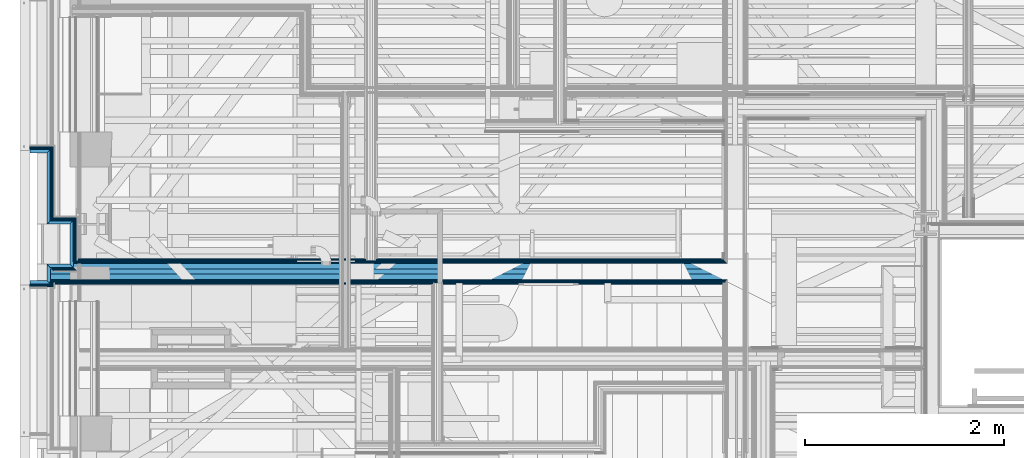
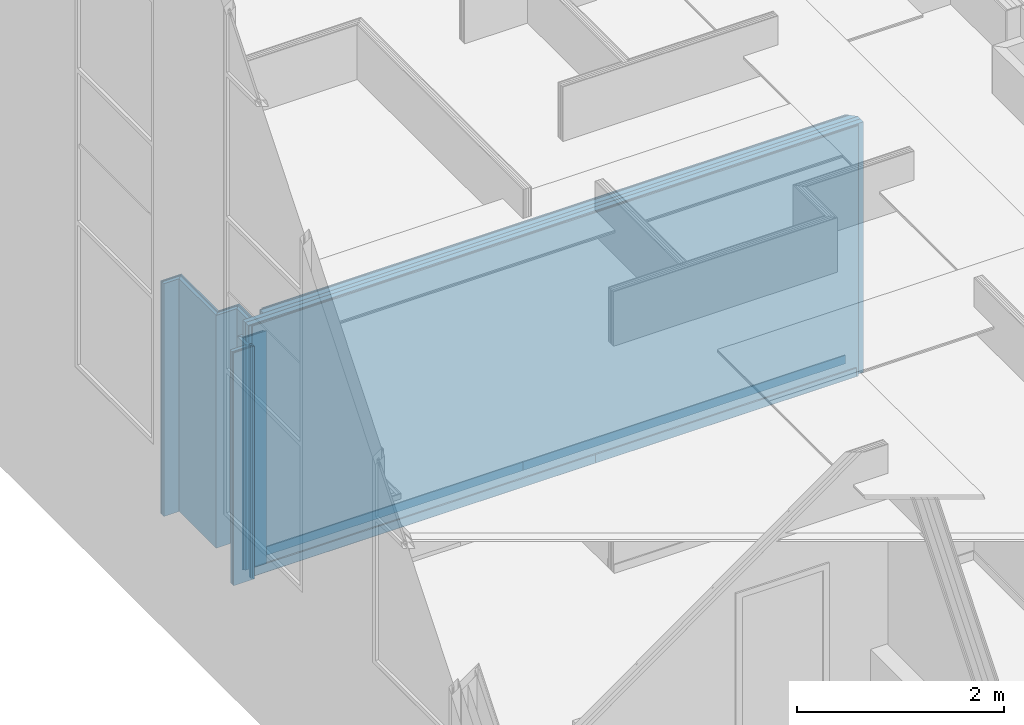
# One storey, part 37 of 183: 32 building element parts, 8 elements without a shape of their own.
"""IFC2X3 building model written with IfcOpenShell, lengths in metres."""

from ifc_helpers import new_model, entity, si_unit, converted_unit, derived_unit, money_unit, direction, frame, frame_2d, origin_with_axes, place, context, subcontext, project, spatial, polyline, rectangle, outline, extrude, material, type_object, element, aggregate, save


model = new_model("IFC2X3")

# Units and contexts
model_context = context("Model", 3, precision=1e-05, world=origin_with_axes(), true_north=direction((0.0, 1.0)))
body_context = subcontext(model_context, "Body", "Model", "MODEL_VIEW", scale=1.0)
ifc_project = project(units=[si_unit("LENGTHUNIT", "METRE"), si_unit("AREAUNIT", "SQUARE_METRE"), si_unit("VOLUMEUNIT", "CUBIC_METRE"), si_unit("ABSORBEDDOSEUNIT", "GRAY"), si_unit("AMOUNTOFSUBSTANCEUNIT", "MOLE"), si_unit("DOSEEQUIVALENTUNIT", "SIEVERT"), si_unit("ELECTRICCAPACITANCEUNIT", "FARAD"), si_unit("ELECTRICCHARGEUNIT", "COULOMB"), si_unit("ELECTRICCONDUCTANCEUNIT", "SIEMENS"), si_unit("ELECTRICCURRENTUNIT", "AMPERE"), si_unit("ELECTRICRESISTANCEUNIT", "OHM"), si_unit("ELECTRICVOLTAGEUNIT", "VOLT"), si_unit("ENERGYUNIT", "JOULE"), si_unit("FORCEUNIT", "NEWTON"), si_unit("FREQUENCYUNIT", "HERTZ"), si_unit("ILLUMINANCEUNIT", "LUX"), si_unit("INDUCTANCEUNIT", "HENRY"), si_unit("LUMINOUSFLUXUNIT", "LUMEN"), si_unit("LUMINOUSINTENSITYUNIT", "CANDELA"), si_unit("MAGNETICFLUXDENSITYUNIT", "TESLA"), si_unit("MAGNETICFLUXUNIT", "WEBER"), si_unit("MASSUNIT", "GRAM"), converted_unit("PLANEANGLEUNIT", "degree", entity("IfcReal", 0.0174532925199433), si_unit("PLANEANGLEUNIT", "RADIAN"), dimensions=[0, 0, 0, 0, 0, 0, 0]), si_unit("POWERUNIT", "WATT"), si_unit("PRESSUREUNIT", "PASCAL"), si_unit("RADIOACTIVITYUNIT", "BECQUEREL"), si_unit("SOLIDANGLEUNIT", "STERADIAN"), si_unit("THERMODYNAMICTEMPERATUREUNIT", "KELVIN"), si_unit("TIMEUNIT", "SECOND"), derived_unit("ACCELERATIONUNIT", [(si_unit("LENGTHUNIT", "METRE"), 1), (si_unit("TIMEUNIT", "SECOND"), -2)]), derived_unit("ANGULARVELOCITYUNIT", [(converted_unit("PLANEANGLEUNIT", "degree", entity("IfcReal", 0.0174532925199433), si_unit("PLANEANGLEUNIT", "RADIAN"), dimensions=[0, 0, 0, 0, 0, 0, 0]), 1), (si_unit("TIMEUNIT", "SECOND"), -1)]), derived_unit("CURVATUREUNIT", [(converted_unit("PLANEANGLEUNIT", "degree", entity("IfcReal", 0.0174532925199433), si_unit("PLANEANGLEUNIT", "RADIAN"), dimensions=[0, 0, 0, 0, 0, 0, 0]), 1), (si_unit("LENGTHUNIT", "METRE"), -1)]), derived_unit("DYNAMICVISCOSITYUNIT", [(si_unit("PRESSUREUNIT", "PASCAL"), 1), (si_unit("TIMEUNIT", "SECOND"), 1)]), derived_unit("HEATFLUXDENSITYUNIT", [(si_unit("POWERUNIT", "WATT"), 1), (si_unit("LENGTHUNIT", "METRE"), -2)]), derived_unit("HEATINGVALUEUNIT", [(si_unit("ENERGYUNIT", "JOULE"), 1), (si_unit("MASSUNIT", "GRAM"), -1)]), derived_unit("INTEGERCOUNTRATEUNIT", [(si_unit("TIMEUNIT", "SECOND"), -1)]), derived_unit("IONCONCENTRATIONUNIT", [(si_unit("MASSUNIT", "GRAM"), 1), (si_unit("VOLUMEUNIT", "CUBIC_METRE"), -1)]), derived_unit("ISOTHERMALMOISTURECAPACITYUNIT", [(si_unit("VOLUMEUNIT", "CUBIC_METRE"), 1), (si_unit("MASSUNIT", "GRAM"), -1)]), derived_unit("KINEMATICVISCOSITYUNIT", [(si_unit("AREAUNIT", "SQUARE_METRE"), 1), (si_unit("TIMEUNIT", "SECOND"), -1)]), derived_unit("LINEARFORCEUNIT", [(si_unit("FORCEUNIT", "NEWTON"), 1), (si_unit("LENGTHUNIT", "METRE"), -1)]), derived_unit("LINEARMOMENTUNIT", [(si_unit("FORCEUNIT", "NEWTON"), 1), (si_unit("LENGTHUNIT", "METRE"), -1)]), derived_unit("LINEARSTIFFNESSUNIT", [(si_unit("FORCEUNIT", "NEWTON"), 1), (si_unit("LENGTHUNIT", "METRE"), -1)]), derived_unit("LINEARVELOCITYUNIT", [(si_unit("LENGTHUNIT", "METRE"), 1), (si_unit("TIMEUNIT", "SECOND"), -1)]), derived_unit("LUMINOUSINTENSITYDISTRIBUTIONUNIT", [(si_unit("LUMINOUSINTENSITYUNIT", "CANDELA"), 1), (si_unit("LUMINOUSFLUXUNIT", "LUMEN"), -1)]), derived_unit("MASSDENSITYUNIT", [(si_unit("MASSUNIT", "GRAM"), 1), (si_unit("VOLUMEUNIT", "CUBIC_METRE"), -1)]), derived_unit("MASSFLOWRATEUNIT", [(si_unit("MASSUNIT", "GRAM"), 1), (si_unit("TIMEUNIT", "SECOND"), -1)]), derived_unit("MASSPERLENGTHUNIT", [(si_unit("MASSUNIT", "GRAM"), 1), (si_unit("LENGTHUNIT", "METRE"), -1)]), derived_unit("MODULUSOFELASTICITYUNIT", [(si_unit("FORCEUNIT", "NEWTON"), 1), (si_unit("AREAUNIT", "SQUARE_METRE"), -1)]), derived_unit("MODULUSOFLINEARSUBGRADEREACTIONUNIT", [(si_unit("FORCEUNIT", "NEWTON"), 1), (si_unit("LENGTHUNIT", "METRE"), -2)]), derived_unit("MODULUSOFROTATIONALSUBGRADEREACTIONUNIT", [(si_unit("FORCEUNIT", "NEWTON"), 1), (si_unit("LENGTHUNIT", "METRE"), 1)]), derived_unit("MODULUSOFSUBGRADEREACTIONUNIT", [(si_unit("FORCEUNIT", "NEWTON"), 1), (si_unit("VOLUMEUNIT", "CUBIC_METRE"), -1)]), derived_unit("MOISTUREDIFFUSIVITYUNIT", [(si_unit("VOLUMEUNIT", "CUBIC_METRE"), 1), (si_unit("TIMEUNIT", "SECOND"), -1)]), derived_unit("MOLECULARWEIGHTUNIT", [(si_unit("MASSUNIT", "GRAM"), 1), (si_unit("AMOUNTOFSUBSTANCEUNIT", "MOLE"), -1)]), derived_unit("PLANARFORCEUNIT", [(si_unit("FORCEUNIT", "NEWTON"), 1), (si_unit("LENGTHUNIT", "METRE"), -2)]), derived_unit("ROTATIONALFREQUENCYUNIT", [(si_unit("TIMEUNIT", "SECOND"), -1)]), derived_unit("ROTATIONALMASSUNIT", [(si_unit("MASSUNIT", "GRAM"), 1), (si_unit("LENGTHUNIT", "METRE"), 2)]), derived_unit("ROTATIONALSTIFFNESSUNIT", [(si_unit("FORCEUNIT", "NEWTON"), 1), (si_unit("LENGTHUNIT", "METRE"), 1), (converted_unit("PLANEANGLEUNIT", "degree", entity("IfcReal", 0.0174532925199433), si_unit("PLANEANGLEUNIT", "RADIAN"), dimensions=[0, 0, 0, 0, 0, 0, 0]), -1)]), derived_unit("SECTIONAREAINTEGRALUNIT", [(si_unit("LENGTHUNIT", "METRE"), 5)]), derived_unit("SECTIONMODULUSUNIT", [(si_unit("LENGTHUNIT", "METRE"), 3)]), derived_unit("SHEARMODULUSUNIT", [(si_unit("FORCEUNIT", "NEWTON"), 1), (si_unit("AREAUNIT", "SQUARE_METRE"), -1)]), derived_unit("SOUNDPOWERUNIT", [(si_unit("ENERGYUNIT", "JOULE"), 1), (si_unit("TIMEUNIT", "SECOND"), -1)]), derived_unit("SPECIFICHEATCAPACITYUNIT", [(si_unit("FORCEUNIT", "NEWTON"), 1), (si_unit("MASSUNIT", "GRAM"), -1), (si_unit("THERMODYNAMICTEMPERATUREUNIT", "KELVIN"), -1)]), derived_unit("TEMPERATUREGRADIENTUNIT", [(si_unit("THERMODYNAMICTEMPERATUREUNIT", "KELVIN"), 1), (si_unit("LENGTHUNIT", "METRE"), -1)]), derived_unit("THERMALADMITTANCEUNIT", [(si_unit("POWERUNIT", "WATT"), 1), (si_unit("AREAUNIT", "SQUARE_METRE"), -1), (si_unit("THERMODYNAMICTEMPERATUREUNIT", "KELVIN"), -1)]), derived_unit("THERMALCONDUCTANCEUNIT", [(si_unit("POWERUNIT", "WATT"), 1), (si_unit("LENGTHUNIT", "METRE"), -1), (si_unit("THERMODYNAMICTEMPERATUREUNIT", "KELVIN"), -1)]), derived_unit("THERMALEXPANSIONCOEFFICIENTUNIT", [(si_unit("THERMODYNAMICTEMPERATUREUNIT", "KELVIN"), -1)]), derived_unit("THERMALRESISTANCEUNIT", [(si_unit("AREAUNIT", "SQUARE_METRE"), 1), (si_unit("POWERUNIT", "WATT"), -1)]), derived_unit("THERMALTRANSMITTANCEUNIT", [(si_unit("POWERUNIT", "WATT"), 1), (si_unit("AREAUNIT", "SQUARE_METRE"), -1), (si_unit("THERMODYNAMICTEMPERATUREUNIT", "KELVIN"), -1)]), derived_unit("TORQUEUNIT", [(si_unit("FORCEUNIT", "NEWTON"), 1), (si_unit("LENGTHUNIT", "METRE"), 1)]), derived_unit("VAPORPERMEABILITYUNIT", [(si_unit("MASSUNIT", "GRAM"), 1), (si_unit("TIMEUNIT", "SECOND"), -1)]), derived_unit("VOLUMETRICFLOWRATEUNIT", [(si_unit("VOLUMEUNIT", "CUBIC_METRE"), 1), (si_unit("TIMEUNIT", "SECOND"), -1)]), derived_unit("WARPINGCONSTANTUNIT", [(si_unit("LENGTHUNIT", "METRE"), 6)]), derived_unit("WARPINGMOMENTUNIT", [(si_unit("FORCEUNIT", "NEWTON"), 1), (si_unit("LENGTHUNIT", "METRE"), 2)]), money_unit("GBP")], contexts=[model_context])

# Site, building, storey
site_placement = place(None, origin_with_axes())
site = spatial("IfcSite", under=ifc_project, at=site_placement, Name="Site", CompositionType="ELEMENT")
building_placement = place(site_placement, origin_with_axes())
building = spatial("IfcBuilding", under=site, at=building_placement, Name="Building01", CompositionType="ELEMENT")
storey_placement = place(building_placement, frame((0.0, 0.0, 5.15), z_axis=(0.0, 0.0, 1.0), x_axis=(1.0, 0.0, 0.0)))
storey = spatial("IfcBuildingStorey", under=building, at=storey_placement, Name="1F", CompositionType="ELEMENT", Elevation=5.15)

# Wall, building element parts
wall_type_1 = type_object("IfcWallType", Name="SHE_A-Walls_Type01c_Partywall_225mm_twin_tall", PredefinedType="NOTDEFINED")
wall_1_placement = place(storey_placement, frame((7.151669, 8.34767, 0.0), z_axis=(0.0, 0.0, 1.0), x_axis=(-1.0, 0.0, 0.0)))
wall_1 = element("IfcWall", 1, at=wall_1_placement, inside=storey, type_object=wall_type_1, Name="1C", ObjectType="SHE_A-Walls_Type01c_Partywall_225mm_twin_tall")
ifc_material_1 = material(Name="A_BSUK_Walls_Timber")
placement_1 = place(wall_1_placement, origin_with_axes())
building_element_part_1 = element("IfcBuildingElementPart", 2, at=placement_1, material=ifc_material_1, Name="1", context=body_context, shape_type="SweptSolid", body=[
    extrude(rectangle(XDim=0.015, YDim=6.486669, at=frame_2d((3.330334, -0.0955), x_axis=(0.0, -1.0))), frame((0.0, 0.0, 0.015), z_axis=(0.0, 0.0, 1.0), x_axis=(1.0, 0.0, 0.0)), (0.0, 0.0, 1.0), 0.1),
])
building_element_part_2 = element("IfcBuildingElementPart", 3, at=placement_1, material=ifc_material_1, Name="2", context=body_context, shape_type="SweptSolid", body=[
    extrude(rectangle(XDim=2.896669, YDim=0.015, at=frame_2d((5.125334, -0.0955), x_axis=(-1.0, 0.0))), frame((0.0, 0.0, 0.015), z_axis=(0.0, 0.0, 1.0), x_axis=(1.0, 0.0, 0.0)), (0.0, 0.0, 1.0), 0.1),
])
ifc_material_2 = material(Name="A_BSUK_WallInternal_Finishes_Plasterboard")
building_element_part_3 = element("IfcBuildingElementPart", 4, at=placement_1, material=ifc_material_2, Name="3", context=body_context, shape_type="SweptSolid", body=[
    extrude(outline(polyline([(6.588669, -0.073), (0.072, -0.073), (0.087, -0.088), (6.588669, -0.088), (6.588669, -0.073)])), origin_with_axes(), (0.0, 0.0, 1.0), 2.95),
])
building_element_part_4 = element("IfcBuildingElementPart", 5, at=placement_1, material=ifc_material_2, Name="4", context=body_context, shape_type="SweptSolid", body=[
    extrude(outline(polyline([(6.615669, -0.058), (0.057, -0.058), (0.072, -0.073), (6.615669, -0.073), (6.615669, -0.058)])), origin_with_axes(), (0.0, 0.0, 1.0), 2.95),
])
ifc_material_3 = material(Name="Air Cavity")
building_element_part_5 = element("IfcBuildingElementPart", 6, at=placement_1, material=ifc_material_3, Name="5", context=body_context, shape_type="SweptSolid", body=[
    extrude(outline(polyline([(6.615669, 0.0), (-0.001, 0.0), (0.057, -0.058), (6.615669, -0.058), (6.615669, 0.0)])), origin_with_axes(), (0.0, 0.0, 1.0), 2.95),
])
ifc_material_4 = material(Name="A_BSUK_Insulation")
building_element_part_6 = element("IfcBuildingElementPart", 7, at=placement_1, material=ifc_material_4, Name="6", context=body_context, shape_type="SweptSolid", body=[
    extrude(rectangle(XDim=6.845669, YDim=0.05, at=frame_2d((3.422834, 0.025), x_axis=(-1.0, 0.0))), origin_with_axes(), (0.0, 0.0, 1.0), 2.95),
])
building_element_part_7 = element("IfcBuildingElementPart", 8, at=placement_1, material=ifc_material_3, Name="7", context=body_context, shape_type="SweptSolid", body=[
    extrude(rectangle(XDim=6.845669, YDim=0.057, at=frame_2d((3.422834, 0.0785), x_axis=(-1.0, 0.0))), origin_with_axes(), (0.0, 0.0, 1.0), 2.95),
])
building_element_part_8 = element("IfcBuildingElementPart", 9, at=placement_1, material=ifc_material_2, Name="8", context=body_context, shape_type="SweptSolid", body=[
    extrude(outline(polyline([(6.845669, 0.122), (0.072, 0.122), (0.057, 0.107), (6.845669, 0.107), (6.845669, 0.122)])), origin_with_axes(), (0.0, 0.0, 1.0), 2.95),
])
building_element_part_9 = element("IfcBuildingElementPart", 10, at=placement_1, material=ifc_material_2, Name="9", context=body_context, shape_type="SweptSolid", body=[
    extrude(rectangle(XDim=6.746669, YDim=0.015, at=frame_2d((3.445334, 0.1295), x_axis=(-1.0, 0.0))), origin_with_axes(), (0.0, 0.0, 1.0), 2.95),
])
building_element_part_10 = element("IfcBuildingElementPart", 11, at=placement_1, material=ifc_material_1, Name="10", context=body_context, shape_type="SweptSolid", body=[
    extrude(rectangle(XDim=6.549669, YDim=0.015, at=frame_2d((3.376834, 0.1445), x_axis=(-1.0, 0.0))), frame((0.0, 0.0, 0.015), z_axis=(0.0, 0.0, 1.0), x_axis=(1.0, 0.0, 0.0)), (0.0, 0.0, 1.0), 0.1),
])
building_element_part_11 = element("IfcBuildingElementPart", 12, at=placement_1, material=ifc_material_1, Name="11", context=body_context, shape_type="SweptSolid", body=[
    extrude(rectangle(XDim=3.79773, YDim=0.015, at=frame_2d((4.904804, 0.1445), x_axis=(-1.0, 0.0))), frame((0.0, 0.0, 0.015), z_axis=(0.0, 0.0, 1.0), x_axis=(1.0, 0.0, 0.0)), (0.0, 0.0, 1.0), 0.1),
])
aggregate(wall_1, [building_element_part_1, building_element_part_2, building_element_part_3, building_element_part_4, building_element_part_5, building_element_part_6, building_element_part_7, building_element_part_8, building_element_part_9, building_element_part_10, building_element_part_11])

wall_type_2 = type_object("IfcWallType", Name="SHE_A-Walls_Type06f_ExternalWallInsulation_48+15mm", PredefinedType="NOTDEFINED")
wall_2_placement = place(storey_placement, frame((0.1, 9.53218, 0.0), z_axis=(0.0, 0.0, 1.0), x_axis=(1.0, 0.0, 0.0)))
wall_2 = element("IfcWall", 13, at=wall_2_placement, inside=storey, type_object=wall_type_2, Name="6F", ObjectType="SHE_A-Walls_Type06f_ExternalWallInsulation_48+15mm")
placement_2 = place(wall_2_placement, origin_with_axes())
building_element_part_12 = element("IfcBuildingElementPart", 14, at=placement_2, material=ifc_material_4, Name="1", context=body_context, shape_type="SweptSolid", body=[
    extrude(outline(polyline([(0.206, 0.018), (0.0, 0.018), (0.0, -0.018), (0.17, -0.018), (0.206, 0.018)])), origin_with_axes(), (0.0, 0.0, 1.0), 2.74),
])
building_element_part_13 = element("IfcBuildingElementPart", 15, at=placement_2, material=ifc_material_2, Name="2", context=body_context, shape_type="SweptSolid", body=[
    extrude(outline(polyline([(0.218, 0.03), (0.0, 0.03), (0.0, 0.018), (0.206, 0.018), (0.218, 0.03)])), origin_with_axes(), (0.0, 0.0, 1.0), 2.74),
])
building_element_part_14 = element("IfcBuildingElementPart", 16, at=placement_2, material=ifc_material_2, Name="3", context=body_context, shape_type="SweptSolid", body=[
    extrude(outline(polyline([(0.233, 0.045), (0.0, 0.045), (0.0, 0.03), (0.218, 0.03), (0.233, 0.045)])), origin_with_axes(), (0.0, 0.0, 1.0), 2.74),
])
aggregate(wall_2, [building_element_part_12, building_element_part_13, building_element_part_14])

wall_3_placement = place(storey_placement, frame((0.288, 9.53218, 0.0), z_axis=(0.0, 0.0, 1.0), x_axis=(0.0, -1.0, 0.0)))
wall_3 = element("IfcWall", 17, at=wall_3_placement, inside=storey, type_object=wall_type_2, Name="6F", ObjectType="SHE_A-Walls_Type06f_ExternalWallInsulation_48+15mm")
placement_3 = place(wall_3_placement, origin_with_axes())
building_element_part_15 = element("IfcBuildingElementPart", 18, at=placement_3, material=ifc_material_4, Name="1", context=body_context, shape_type="SweptSolid", body=[
    extrude(outline(polyline([(0.69618, 0.018), (-0.018, 0.018), (0.018, -0.018), (0.73218, -0.018), (0.69618, 0.018)])), origin_with_axes(), (0.0, 0.0, 1.0), 2.74),
])
building_element_part_16 = element("IfcBuildingElementPart", 19, at=placement_3, material=ifc_material_2, Name="2", context=body_context, shape_type="SweptSolid", body=[
    extrude(outline(polyline([(0.68418, 0.03), (-0.03, 0.03), (-0.018, 0.018), (0.69618, 0.018), (0.68418, 0.03)])), origin_with_axes(), (0.0, 0.0, 1.0), 2.74),
])
building_element_part_17 = element("IfcBuildingElementPart", 20, at=placement_3, material=ifc_material_2, Name="3", context=body_context, shape_type="SweptSolid", body=[
    extrude(outline(polyline([(0.66918, 0.045), (-0.045, 0.045), (-0.03, 0.03), (0.68418, 0.03), (0.66918, 0.045)])), origin_with_axes(), (0.0, 0.0, 1.0), 2.74),
])
aggregate(wall_3, [building_element_part_15, building_element_part_16, building_element_part_17])

wall_4_placement = place(storey_placement, frame((0.288, 8.818, 0.0), z_axis=(0.0, 0.0, 1.0), x_axis=(1.0, 0.0, 0.0)))
wall_4 = element("IfcWall", 21, at=wall_4_placement, inside=storey, type_object=wall_type_2, Name="6F", ObjectType="SHE_A-Walls_Type06f_ExternalWallInsulation_48+15mm")
placement_4 = place(wall_4_placement, origin_with_axes())
building_element_part_18 = element("IfcBuildingElementPart", 22, at=placement_4, material=ifc_material_4, Name="1", context=body_context, shape_type="SweptSolid", body=[
    extrude(outline(polyline([(0.248, 0.018), (0.018, 0.018), (-0.018, -0.018), (0.212, -0.018), (0.248, 0.018)])), origin_with_axes(), (0.0, 0.0, 1.0), 2.74),
])
building_element_part_19 = element("IfcBuildingElementPart", 23, at=placement_4, material=ifc_material_2, Name="2", context=body_context, shape_type="SweptSolid", body=[
    extrude(outline(polyline([(0.26, 0.03), (0.03, 0.03), (0.018, 0.018), (0.248, 0.018), (0.26, 0.03)])), origin_with_axes(), (0.0, 0.0, 1.0), 2.74),
])
building_element_part_20 = element("IfcBuildingElementPart", 24, at=placement_4, material=ifc_material_2, Name="3", context=body_context, shape_type="SweptSolid", body=[
    extrude(outline(polyline([(0.275, 0.045), (0.045, 0.045), (0.03, 0.03), (0.26, 0.03), (0.275, 0.045)])), origin_with_axes(), (0.0, 0.0, 1.0), 2.74),
])
aggregate(wall_4, [building_element_part_18, building_element_part_19, building_element_part_20])

wall_5_placement = place(storey_placement, frame((0.518, 8.818, 0.0), z_axis=(0.0, 0.0, 1.0), x_axis=(0.0, -1.0, 0.0)))
wall_5 = element("IfcWall", 25, at=wall_5_placement, inside=storey, type_object=wall_type_2, Name="6F", ObjectType="SHE_A-Walls_Type06f_ExternalWallInsulation_48+15mm")
placement_5 = place(wall_5_placement, origin_with_axes())
building_element_part_21 = element("IfcBuildingElementPart", 26, at=placement_5, material=ifc_material_4, Name="1", context=body_context, shape_type="SweptSolid", body=[
    extrude(outline(polyline([(0.454, 0.018), (-0.018, 0.018), (0.018, -0.018), (0.418, -0.018), (0.454, 0.018)])), origin_with_axes(), (0.0, 0.0, 1.0), 2.74),
])
building_element_part_22 = element("IfcBuildingElementPart", 27, at=placement_5, material=ifc_material_2, Name="2", context=body_context, shape_type="SweptSolid", body=[
    extrude(outline(polyline([(0.39733, 0.03), (-0.03, 0.03), (-0.018, 0.018), (0.39733, 0.018), (0.39733, 0.03)])), origin_with_axes(), (0.0, 0.0, 1.0), 2.74),
])
building_element_part_23 = element("IfcBuildingElementPart", 28, at=placement_5, material=ifc_material_2, Name="3", context=body_context, shape_type="SweptSolid", body=[
    extrude(outline(polyline([(0.39733, 0.045), (-0.045, 0.045), (-0.03, 0.03), (0.39733, 0.03), (0.39733, 0.045)])), origin_with_axes(), (0.0, 0.0, 1.0), 2.74),
])
aggregate(wall_5, [building_element_part_21, building_element_part_22, building_element_part_23])

wall_6_placement = place(storey_placement, frame((0.518, 8.382, 0.0), z_axis=(0.0, 0.0, 1.0), x_axis=(-1.0, 0.0, 0.0)))
wall_6 = element("IfcWall", 29, at=wall_6_placement, inside=storey, type_object=wall_type_2, Name="6F", ObjectType="SHE_A-Walls_Type06f_ExternalWallInsulation_48+15mm")
placement_6 = place(wall_6_placement, origin_with_axes())
building_element_part_24 = element("IfcBuildingElementPart", 30, at=placement_6, material=ifc_material_4, Name="1", context=body_context, shape_type="SweptSolid", body=[
    extrude(outline(polyline([(0.212, 0.018), (-0.018, 0.018), (0.018, -0.018), (0.248, -0.018), (0.212, 0.018)])), origin_with_axes(), (0.0, 0.0, 1.0), 2.74),
])
building_element_part_25 = element("IfcBuildingElementPart", 31, at=placement_6, material=ifc_material_2, Name="2", context=body_context, shape_type="SweptSolid", body=[
    extrude(outline(polyline([(0.2, 0.03), (-0.03, 0.03), (-0.018, 0.018), (0.212, 0.018), (0.2, 0.03)])), origin_with_axes(), (0.0, 0.0, 1.0), 2.74),
])
building_element_part_26 = element("IfcBuildingElementPart", 32, at=placement_6, material=ifc_material_2, Name="3", context=body_context, shape_type="SweptSolid", body=[
    extrude(outline(polyline([(0.185, 0.045), (-0.045, 0.045), (-0.03, 0.03), (0.2, 0.03), (0.185, 0.045)])), origin_with_axes(), (0.0, 0.0, 1.0), 2.74),
])
aggregate(wall_6, [building_element_part_24, building_element_part_25, building_element_part_26])

wall_7_placement = place(storey_placement, frame((0.288, 8.382, 0.0), z_axis=(0.0, 0.0, 1.0), x_axis=(0.0, -1.0, 0.0)))
wall_7 = element("IfcWall", 33, at=wall_7_placement, inside=storey, type_object=wall_type_2, Name="6F", ObjectType="SHE_A-Walls_Type06f_ExternalWallInsulation_48+15mm")
placement_7 = place(wall_7_placement, origin_with_axes())
building_element_part_27 = element("IfcBuildingElementPart", 34, at=placement_7, material=ifc_material_4, Name="1", context=body_context, shape_type="SweptSolid", body=[
    extrude(outline(polyline([(0.185, 0.018), (0.018, 0.018), (-0.018, -0.018), (0.149, -0.018), (0.185, 0.018)])), origin_with_axes(), (0.0, 0.0, 1.0), 2.74),
])
building_element_part_28 = element("IfcBuildingElementPart", 35, at=placement_7, material=ifc_material_2, Name="2", context=body_context, shape_type="SweptSolid", body=[
    extrude(outline(polyline([(0.197, 0.03), (0.15633, 0.03), (0.15633, 0.018), (0.185, 0.018), (0.197, 0.03)])), origin_with_axes(), (0.0, 0.0, 1.0), 2.74),
])
building_element_part_29 = element("IfcBuildingElementPart", 36, at=placement_7, material=ifc_material_2, Name="3", context=body_context, shape_type="SweptSolid", body=[
    extrude(outline(polyline([(0.212, 0.045), (0.15633, 0.045), (0.15633, 0.03), (0.197, 0.03), (0.212, 0.045)])), origin_with_axes(), (0.0, 0.0, 1.0), 2.74),
])
aggregate(wall_7, [building_element_part_27, building_element_part_28, building_element_part_29])

wall_8_placement = place(storey_placement, frame((0.288, 8.215, 0.0), z_axis=(0.0, 0.0, 1.0), x_axis=(-1.0, 0.0, 0.0)))
wall_8 = element("IfcWall", 37, at=wall_8_placement, inside=storey, type_object=wall_type_2, Name="6F", ObjectType="SHE_A-Walls_Type06f_ExternalWallInsulation_48+15mm")
placement_8 = place(wall_8_placement, origin_with_axes())
building_element_part_30 = element("IfcBuildingElementPart", 38, at=placement_8, material=ifc_material_4, Name="1", context=body_context, shape_type="SweptSolid", body=[
    extrude(outline(polyline([(-0.018, 0.018), (0.018, -0.018), (0.188, -0.018), (0.188, 0.018), (-0.018, 0.018)])), origin_with_axes(), (0.0, 0.0, 1.0), 2.74),
])
building_element_part_31 = element("IfcBuildingElementPart", 39, at=placement_8, material=ifc_material_2, Name="2", context=body_context, shape_type="SweptSolid", body=[
    extrude(outline(polyline([(-0.03, 0.03), (-0.018, 0.018), (0.188, 0.018), (0.188, 0.03), (-0.03, 0.03)])), origin_with_axes(), (0.0, 0.0, 1.0), 2.74),
])
building_element_part_32 = element("IfcBuildingElementPart", 40, at=placement_8, material=ifc_material_2, Name="3", context=body_context, shape_type="SweptSolid", body=[
    extrude(outline(polyline([(-0.045, 0.045), (-0.03, 0.03), (0.188, 0.03), (0.188, 0.045), (-0.045, 0.045)])), origin_with_axes(), (0.0, 0.0, 1.0), 2.74),
])
aggregate(wall_8, [building_element_part_30, building_element_part_31, building_element_part_32])

save(model, "model.ifc")
